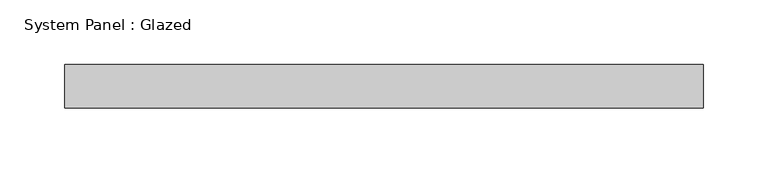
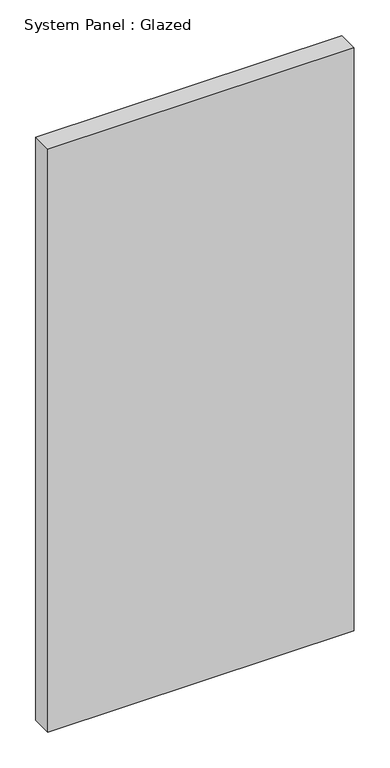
"""IFC4 building model written with IfcOpenShell, lengths in millimetres: plate geometry, System Panel : Glazed."""

from ifc_helpers import new_model, si_unit, origin, origin_with_axes, place, context, project, spatial, polyline, outline, extrude, source, transform, mapped, element, save


def system_panel_glazed_57e81d33(model_context):
    return source(origin(), model_context, "Body", "SweptSolid", [
        extrude(outline(polyline([(247.5, -17.0), (-247.5, -17.0), (-247.5, 17.0), (247.5, 17.0), (247.5, -17.0)])), origin_with_axes(), (0.0, 0.0, 1.0), 995.0),
    ])


if __name__ == "__main__":
    model = new_model("IFC4")
    model_context = context("Model", 3, world=origin())
    ifc_project = project(units=[si_unit("LENGTHUNIT", "METRE", prefix="MILLI")], contexts=[model_context])
    site = spatial("IfcSite", under=ifc_project)
    building = spatial("IfcBuilding", under=site)
    placement = place(None, origin())
    system_panel_glazed_shape = system_panel_glazed_57e81d33(model_context)
    element("IfcPlate", 1, ObjectType="System Panel : Glazed", at=placement, inside=building, context=model_context, shape_type="MappedRepresentation", body=[
        mapped(system_panel_glazed_shape, transform((0.0, 0.0, 0.0), x_axis=(1.0, 0.0, 0.0), y_axis=(0.0, 1.0, 0.0), z_axis=(0.0, 0.0, 1.0))),
    ])
    save(model, "model.ifc")
